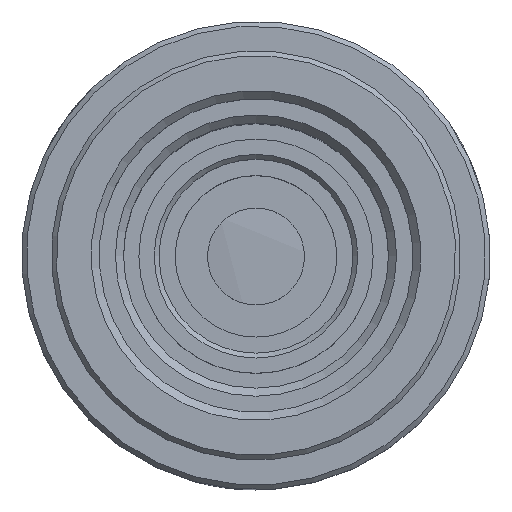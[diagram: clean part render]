
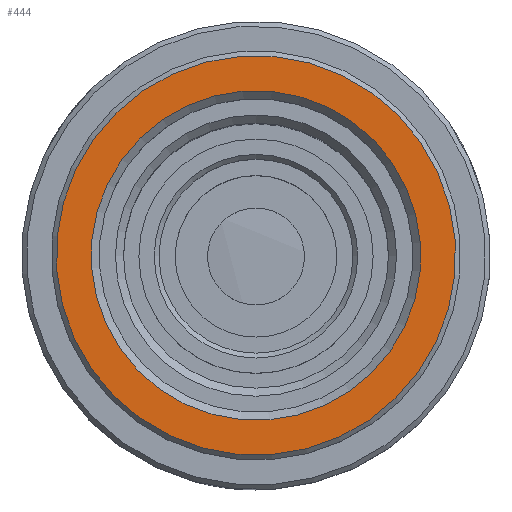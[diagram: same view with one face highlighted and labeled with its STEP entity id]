
A CAD part, top view. The second image highlights one B-rep face of the part: STEP entity #444.
In plain terms, the highlighted planar face has unit normal (0, 0, 1).
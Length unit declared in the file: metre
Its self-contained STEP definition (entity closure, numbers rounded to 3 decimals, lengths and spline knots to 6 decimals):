
#444=ADVANCED_FACE('NONE',(#1049,#1050),#1051,.F.);
#1049=FACE_BOUND('',#1904,.T.);
#1050=FACE_OUTER_BOUND('',#1905,.T.);
#1051=PLANE('',#1906);
#1904=EDGE_LOOP('',(#2922));
#1905=EDGE_LOOP('',(#2923));
#1906=AXIS2_PLACEMENT_3D('',#2924,#2925,#2926);
#2922=ORIENTED_EDGE('',*,*,#3655,.T.);
#2923=ORIENTED_EDGE('',*,*,#3653,.T.);
#2924=CARTESIAN_POINT('',(0.003078,0.012024,0.06115));
#2925=DIRECTION('',(0.,0.0,-1.0));
#2926=DIRECTION('',(-1.0,0.0,0.));
#3653=EDGE_CURVE('NONE',#4182,#4182,#4183,.T.);
#3655=EDGE_CURVE('NONE',#4185,#4185,#4186,.T.);
#4182=VERTEX_POINT('',#5123);
#4183=CIRCLE('',#5124,0.01236);
#4185=VERTEX_POINT('',#5126);
#4186=CIRCLE('',#5127,0.0102);
#5123=CARTESIAN_POINT('',(-0.010435,0.000603,0.06115));
#5124=AXIS2_PLACEMENT_3D('',#5840,#5841,#5842);
#5126=CARTESIAN_POINT('',(-0.008285,0.000397,0.06115));
#5127=AXIS2_PLACEMENT_3D('',#5843,#5844,#5845);
#5840=CARTESIAN_POINT('',(0.001869,-0.000578,0.06115));
#5841=DIRECTION('',(0.,0.0,1.0));
#5842=DIRECTION('',(-0.995,0.096,0.));
#5843=CARTESIAN_POINT('',(0.001869,-0.000578,0.06115));
#5844=DIRECTION('',(0.,0.0,-1.0));
#5845=DIRECTION('',(-0.995,0.096,0.));
